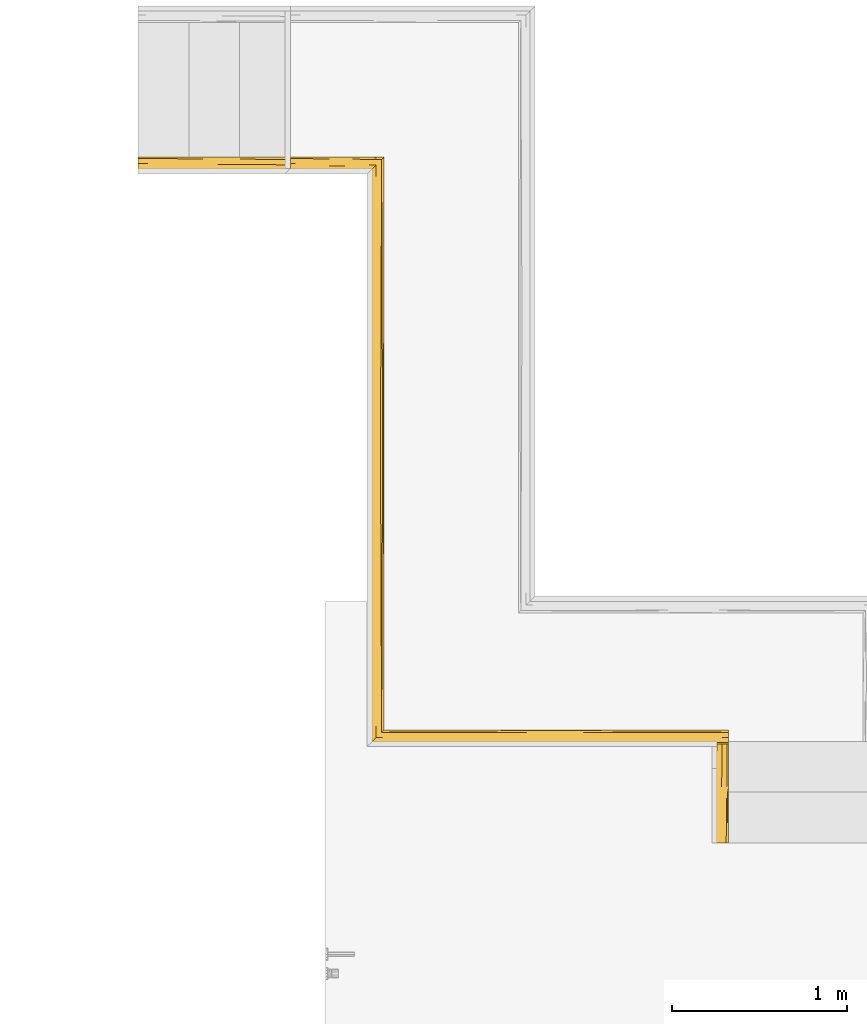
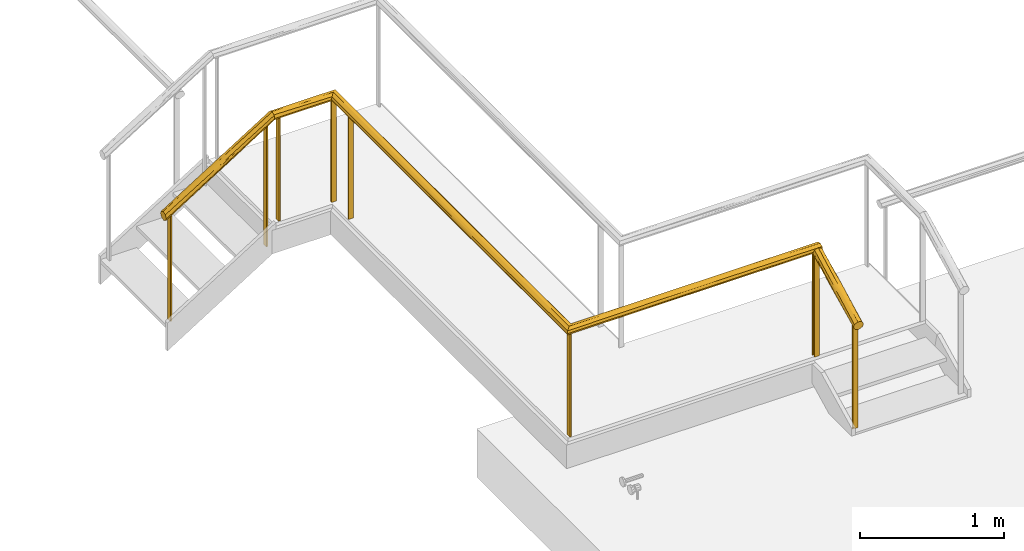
# One storey, part 13 of 15: 2 railings, 2 elements without a shape of their own.
"""IFC2X3 building model written with IfcOpenShell, lengths in centimetres."""

from ifc_helpers import new_model, entity, si_unit, converted_unit, derived_unit, direction, frame, origin, place, context, subcontext, project, spatial, faceted_brep, material, material_list, element, aggregate, save


model = new_model("IFC2X3")

# Units and contexts
model_context = context("Model", 3, precision=0.001, world=origin(), true_north=direction((6.12303176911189e-17, 1.0)))
body_context = subcontext(model_context, "Body", "Model", "MODEL_VIEW")
ifc_project = project(units=[si_unit("LENGTHUNIT", "METRE", prefix="CENTI"), si_unit("AREAUNIT", "SQUARE_METRE"), si_unit("VOLUMEUNIT", "CUBIC_METRE"), converted_unit("PLANEANGLEUNIT", "DEGREE", entity("IfcRatioMeasure", 0.0174532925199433), si_unit("PLANEANGLEUNIT", "RADIAN"), dimensions=[0, 0, 0, 0, 0, 0, 0]), si_unit("MASSUNIT", "GRAM", prefix="KILO"), si_unit("TIMEUNIT", "SECOND"), si_unit("FREQUENCYUNIT", "HERTZ"), si_unit("THERMODYNAMICTEMPERATUREUNIT", "DEGREE_CELSIUS"), derived_unit("THERMALTRANSMITTANCEUNIT", [(si_unit("MASSUNIT", "GRAM", prefix="KILO"), 1), (si_unit("THERMODYNAMICTEMPERATUREUNIT", "KELVIN"), -1), (si_unit("TIMEUNIT", "SECOND"), -3)]), derived_unit("VOLUMETRICFLOWRATEUNIT", [(si_unit("LENGTHUNIT", "METRE"), 3), (si_unit("TIMEUNIT", "SECOND"), -1)]), si_unit("ELECTRICCURRENTUNIT", "AMPERE"), si_unit("ELECTRICVOLTAGEUNIT", "VOLT"), si_unit("POWERUNIT", "WATT"), si_unit("FORCEUNIT", "NEWTON", prefix="KILO"), si_unit("ILLUMINANCEUNIT", "LUX"), si_unit("LUMINOUSFLUXUNIT", "LUMEN"), si_unit("LUMINOUSINTENSITYUNIT", "CANDELA"), derived_unit("USERDEFINED", [(si_unit("MASSUNIT", "GRAM", prefix="KILO"), -1), (si_unit("LENGTHUNIT", "METRE"), -2), (si_unit("TIMEUNIT", "SECOND"), 3), (si_unit("LUMINOUSFLUXUNIT", "LUMEN"), 1)]), derived_unit("LINEARVELOCITYUNIT", [(si_unit("LENGTHUNIT", "METRE"), 1), (si_unit("TIMEUNIT", "SECOND"), -1)]), si_unit("PRESSUREUNIT", "PASCAL"), derived_unit("USERDEFINED", [(si_unit("LENGTHUNIT", "METRE"), -2), (si_unit("MASSUNIT", "GRAM", prefix="KILO"), 1), (si_unit("TIMEUNIT", "SECOND"), -2)])], contexts=[model_context])

# Site, building, storey
site_placement = place(None, frame((8.62739174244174, -249.285249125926, 0.0)))
site = spatial("IfcSite", under=ifc_project, at=site_placement, Name="Default", CompositionType="ELEMENT")
building_placement = place(site_placement, origin())
building = spatial("IfcBuilding", under=site, at=building_placement, CompositionType="ELEMENT")
storey_placement = place(building_placement, frame((0.0, 0.0, 801.0)))
storey = spatial("IfcBuildingStorey", under=building, at=storey_placement, Name="Acrotère E3", CompositionType="ELEMENT", Elevation=801.0)

# Stair, railing
stair_1_placement = place(storey_placement, origin())
stair_1 = element("IfcStair", 1, at=stair_1_placement, inside=storey, Name="Escalier assemblé:Escalier", ShapeType="NOTDEFINED")
ifc_material_1 = material(Name="Peinture - Grise")
ifc_material_2 = material(Name="Pin (1)")
ifc_material_list_1 = material_list([ifc_material_1, ifc_material_2])
railing_1_placement = place(stair_1_placement, frame((3033.90482781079, 5956.9802081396, 24.8888888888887)))
railing_1 = element("IfcRailing", 2, at=railing_1_placement, material=ifc_material_list_1, Name="Garde-corps:Type Bateau", ObjectType="Garde-corps:Type Bateau", PredefinedType="NOTDEFINED", context=body_context, shape_type="Brep", body=[
    faceted_brep([(51.540000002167, 364.888606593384, 116.095764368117), (47.5400000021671, 364.888606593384, 116.095764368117), (47.5400000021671, 363.688606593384, 116.095764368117), (51.540000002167, 363.688606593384, 116.095764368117), (51.540000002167, 364.888606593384, 29.111111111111), (51.540000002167, 363.688606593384, 29.111111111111), (47.5400000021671, 363.688606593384, 29.111111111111), (47.5400000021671, 364.888606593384, 29.111111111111)], [[[0, 1, 2, 3]], [[4, 5, 6, 7]], [[3, 5, 4, 0]], [[2, 6, 5, 3]], [[1, 7, 6, 2]], [[0, 4, 7, 1]]]),
    faceted_brep([(51.540000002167, 388.637213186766, 116.095764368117), (47.5400000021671, 388.637213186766, 116.095764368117), (47.5400000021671, 387.437213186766, 116.095764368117), (51.540000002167, 387.437213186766, 116.095764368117), (51.540000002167, 388.637213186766, 29.111111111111), (51.540000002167, 387.437213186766, 29.111111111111), (47.5400000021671, 387.437213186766, 29.111111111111), (47.5400000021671, 388.637213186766, 29.111111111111)], [[[0, 1, 2, 3]], [[4, 5, 6, 7]], [[3, 5, 4, 0]], [[2, 6, 5, 3]], [[1, 7, 6, 2]], [[0, 4, 7, 1]]]),
    faceted_brep([(48.9400000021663, 62.5400000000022, 116.095764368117), (48.9400000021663, 58.5400000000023, 116.095764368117), (50.1400000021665, 58.5400000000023, 116.095764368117), (50.1400000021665, 62.5400000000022, 116.095764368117), (48.9400000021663, 62.5400000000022, 29.111111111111), (50.1400000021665, 62.5400000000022, 29.111111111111), (50.1400000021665, 58.5400000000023, 29.111111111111), (48.9400000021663, 58.5400000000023, 29.111111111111)], [[[0, 1, 2, 3]], [[4, 5, 6, 7]], [[3, 5, 4, 0]], [[2, 6, 5, 3]], [[1, 7, 6, 2]], [[0, 4, 7, 1]]]),
    faceted_brep([(248.539999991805, 61.1400000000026, 117.012129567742), (244.539999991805, 61.1400000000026, 117.012129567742), (244.539999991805, 59.9400000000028, 117.012129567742), (248.539999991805, 59.9400000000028, 117.012129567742), (248.539999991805, 61.1400000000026, 29.111111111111), (248.539999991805, 59.9400000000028, 29.111111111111), (244.539999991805, 59.9400000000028, 29.111111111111), (244.539999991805, 61.1400000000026, 29.111111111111)], [[[0, 1, 2, 3]], [[4, 5, 6, 7]], [[3, 5, 4, 0]], [[2, 6, 5, 3]], [[1, 7, 6, 2]], [[0, 4, 7, 1]]]),
    faceted_brep([(248.539999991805, 58.6000000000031, 115.73726366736), (244.539999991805, 58.6000000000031, 115.73726366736), (244.539999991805, 57.4000000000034, 115.73726366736), (248.539999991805, 57.4000000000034, 115.73726366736), (248.539999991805, 58.6000000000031, 29.111111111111), (248.539999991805, 57.4000000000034, 29.111111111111), (244.539999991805, 57.4000000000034, 29.111111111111), (244.539999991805, 58.6000000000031, 29.111111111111)], [[[0, 1, 2, 3]], [[4, 5, 6, 7]], [[3, 5, 4, 0]], [[2, 6, 5, 3]], [[1, 7, 6, 2]], [[0, 4, 7, 1]]]),
    faceted_brep([(4.4000000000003, 390.037213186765, 116.095764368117), (4.4000000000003, 386.037213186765, 116.095764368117), (5.60000000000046, 386.037213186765, 116.095764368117), (5.60000000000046, 390.037213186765, 116.095764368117), (4.4000000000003, 390.037213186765, 29.111111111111), (5.60000000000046, 390.037213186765, 29.111111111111), (5.60000000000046, 386.037213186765, 29.111111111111), (4.4000000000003, 386.037213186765, 29.111111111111)], [[[0, 1, 2, 3]], [[4, 5, 6, 7]], [[3, 5, 4, 0]], [[2, 6, 5, 3]], [[1, 7, 6, 2]], [[0, 4, 7, 1]]]),
    faceted_brep([(248.539999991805, 5.60000000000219, 89.1357311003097), (244.539999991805, 5.60000000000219, 89.1357311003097), (244.539999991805, 4.40000000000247, 89.1357311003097), (248.539999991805, 4.40000000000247, 89.1357311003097), (248.539999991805, 5.60000000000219, 0.0), (248.539999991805, 4.40000000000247, 0.0), (244.539999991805, 4.40000000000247, 0.0), (244.539999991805, 5.60000000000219, 0.0)], [[[0, 1, 2, 3]], [[4, 5, 6, 7]], [[3, 5, 4, 0]], [[2, 6, 5, 3]], [[1, 7, 6, 2]], [[0, 4, 7, 1]]]),
    faceted_brep([(246.121886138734, 0.0, 93.3382878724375), (244.71290907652, 0.0, 92.6556462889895), (243.303932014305, 0.0, 91.9730047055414), (242.921966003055, 0.0, 90.9865023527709), (242.539999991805, 0.0, 90.0), (243.201738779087, 0.0, 88.7527517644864), (243.863477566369, 0.0, 87.5055035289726), (245.410795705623, 0.0, 87.0836078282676), (246.184454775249, 0.0, 86.8726599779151), (246.958113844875, 0.0, 86.6617121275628), (248.36709090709, 0.0, 87.3443537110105), (249.776067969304, 0.0, 88.0269952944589), (250.158033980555, 0.0, 89.0134976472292), (250.539999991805, 0.0, 90.0), (249.878261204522, 0.0, 91.2472482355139), (249.21652241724, 0.0, 92.4944964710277), (247.669204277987, 0.0, 92.9163921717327), (246.121886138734, 56.4790765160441, 115.009447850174), (244.71290907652, 56.4790765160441, 115.692089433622), (243.303932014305, 56.4790765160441, 116.37473101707), (242.921966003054, 56.4790765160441, 117.36123336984), (242.539999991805, 56.4790765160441, 118.347735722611), (242.89580953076, 56.4790765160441, 119.018367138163), (243.201738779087, 56.4790765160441, 119.594983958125), (243.863477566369, 56.4790765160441, 120.842232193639), (245.410795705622, 56.4790765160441, 121.264127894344), (246.958113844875, 56.4790765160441, 121.686023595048), (248.367090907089, 56.4790765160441, 121.0033820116), (249.776067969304, 56.4790765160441, 120.320740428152), (250.158033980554, 56.4790765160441, 119.334238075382), (250.539999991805, 56.4790765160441, 118.347735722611), (249.878261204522, 56.4790765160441, 117.100487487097), (249.21652241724, 56.4790765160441, 115.853239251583), (247.669204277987, 56.4790765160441, 115.431343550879), (242.962581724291, 30.6450815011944, 103.879609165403), (246.543648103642, 28.2891961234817, 100.842117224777), (243.585607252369, 28.5639294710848, 102.073795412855), (244.419956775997, 25.1127368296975, 99.7580463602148), (245.430823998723, 31.6054961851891, 102.638250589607), (248.670616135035, 31.4298011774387, 102.93424492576), (247.666077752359, 24.7667047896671, 99.20988109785), (250.119345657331, 26.1579074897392, 101.630663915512), (242.539999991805, 31.2933393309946, 105.706618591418), (249.499376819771, 28.0204494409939, 101.805605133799), (250.539999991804, 31.2933393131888, 105.706618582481), (250.539999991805, 25.1857355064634, 102.641116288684), (242.539999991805, 25.1857355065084, 102.641116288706), (250.122796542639, 30.2785283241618, 106.689850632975), (249.506560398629, 28.3368832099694, 106.474378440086), (248.679067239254, 25.166773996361, 105.467989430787), (247.678586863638, 31.8643434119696, 109.21103326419), (246.553608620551, 28.0744320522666, 107.447655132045), (245.477088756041, 25.4280662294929, 105.998743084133), (244.472921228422, 32.0767263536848, 108.973545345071), (243.592239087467, 27.79925354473, 106.221853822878), (242.649440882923, 24.7389384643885, 103.196679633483), (242.971281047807, 25.7162267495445, 104.42352347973)], [[[0, 1, 2, 3, 4, 5, 6, 7, 8, 9, 10, 11, 12, 13, 14, 15, 16]], [[17, 18, 19, 20, 21, 22, 23, 24, 25, 26, 27, 28, 29, 30, 31, 32, 33]], [[19, 34, 20]], [[35, 17, 33]], [[36, 37, 6]], [[35, 38, 17]], [[39, 40, 33]], [[8, 7, 38]], [[38, 7, 37]], [[40, 10, 9]], [[33, 40, 35]], [[5, 36, 6]], [[11, 41, 12]], [[34, 5, 42]], [[38, 35, 8]], [[9, 8, 35]], [[31, 43, 32]], [[31, 30, 44, 45]], [[9, 35, 40]], [[39, 32, 43]], [[10, 40, 39]], [[38, 18, 17]], [[18, 38, 37]], [[11, 10, 43]], [[32, 39, 33]], [[39, 43, 10]], [[45, 13, 12]], [[31, 41, 43]], [[19, 18, 36]], [[41, 31, 45]], [[6, 37, 7]], [[37, 36, 18]], [[5, 4, 46, 42]], [[5, 34, 36]], [[42, 21, 20]], [[43, 41, 11]], [[12, 41, 45]], [[36, 34, 19]], [[20, 34, 42]], [[28, 47, 29]], [[14, 48, 15]], [[49, 50, 16]], [[16, 50, 51]], [[51, 25, 52]], [[0, 51, 52]], [[53, 1, 52]], [[24, 23, 54]], [[23, 55, 56]], [[14, 13, 45, 44]], [[23, 56, 54]], [[3, 2, 56]], [[55, 23, 22]], [[53, 54, 1]], [[55, 46, 4]], [[49, 15, 48]], [[22, 21, 42, 46]], [[2, 54, 56]], [[24, 54, 53]], [[54, 2, 1]], [[53, 25, 24]], [[25, 53, 52]], [[3, 56, 55]], [[26, 25, 51]], [[0, 52, 1]], [[26, 51, 50]], [[51, 0, 16]], [[50, 27, 26]], [[27, 50, 49]], [[28, 27, 48]], [[15, 49, 16]], [[49, 48, 27]], [[44, 30, 29]], [[14, 47, 48]], [[3, 55, 4]], [[47, 14, 44]], [[46, 55, 22]], [[48, 47, 28]], [[29, 47, 44]]]),
    faceted_brep([(250.600923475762, 57.2017387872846, 117.996393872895), (250.600923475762, 57.8634775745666, 116.881676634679), (250.600923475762, 59.4107957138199, 116.504611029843), (250.600923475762, 60.9581138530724, 116.127545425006), (250.600923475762, 62.367090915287, 116.73765038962), (250.600923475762, 63.7760679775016, 117.347755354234), (250.600923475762, 64.1580339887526, 118.229433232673), (250.600923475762, 64.5400000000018, 119.111111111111), (250.600923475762, 64.1434902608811, 119.779042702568), (250.600923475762, 63.7469805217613, 120.446974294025), (250.600923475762, 63.2165224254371, 121.340545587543), (250.600923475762, 61.6692042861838, 121.71761119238), (250.600923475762, 60.1218861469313, 122.094676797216), (250.600923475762, 58.7129090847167, 121.484571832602), (250.600923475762, 57.303932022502, 120.874466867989), (250.600923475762, 56.921966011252, 119.99278898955), (250.600923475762, 56.5400000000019, 119.111111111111), (150.279518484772, 60.1218861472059, 116.127545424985), (53.1580339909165, 64.1580339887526, 118.229433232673), (151.688495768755, 64.1026388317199, 117.747099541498), (52.7760679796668, 63.7760679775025, 117.347755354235), (46.2017387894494, 57.2017387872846, 117.996393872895), (148.732199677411, 57.3039320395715, 117.347755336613), (148.401329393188, 56.8035327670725, 118.040208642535), (148.732200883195, 58.5317784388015, 116.516604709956), (150.279518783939, 61.7679582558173, 116.255972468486), (151.688495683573, 63.4689740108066, 117.067982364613), (141.915184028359, 64.4288439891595, 118.408792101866), (51.3670909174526, 62.3670909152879, 116.737650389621), (151.029516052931, 62.687803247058, 116.580270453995), (53.5400000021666, 64.5400000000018, 119.111111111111), (49.958113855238, 60.9581138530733, 116.127545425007), (48.4107957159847, 59.4107957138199, 116.504611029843), (46.8634775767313, 57.8634775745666, 116.881676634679), (149.075131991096, 64.5400000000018, 119.111111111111), (151.075232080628, 64.5400000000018, 119.111111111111), (147.065795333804, 56.5400000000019, 119.111111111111), (145.065693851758, 56.5400000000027, 119.111111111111), (45.5400000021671, 56.5400000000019, 119.111111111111), (46.164856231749, 57.1648562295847, 118.058523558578), (149.861404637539, 60.9487703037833, 122.095405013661), (52.2165224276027, 63.216522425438, 121.340545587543), (151.408722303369, 63.6756127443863, 120.97376034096), (52.8782612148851, 63.8782612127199, 120.225828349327), (154.895742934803, 64.20421231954, 120.314282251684), (151.408723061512, 62.8986050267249, 121.534085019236), (150.635063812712, 61.9938697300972, 121.905931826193), (161.384042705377, 56.649896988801, 119.80949706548), (148.452427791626, 56.9759739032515, 120.473082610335), (47.7129090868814, 58.7129090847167, 121.484571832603), (149.156916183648, 59.2957366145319, 121.962276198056), (49.121886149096, 60.1218861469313, 122.094676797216), (50.6692042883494, 61.6692042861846, 121.71761119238), (148.452427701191, 57.6434369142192, 121.18006768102), (45.8451607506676, 56.8451607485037, 119.815502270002), (46.3039320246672, 57.303932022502, 120.874466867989), (46.0209030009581, 57.0209029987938, 120.221161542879), (153.8890804, 58.4047690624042, 121.647928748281), (46.2017387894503, 384.698951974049, 117.996393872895), (46.8634775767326, 385.360690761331, 116.881676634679), (46.2753437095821, 214.666186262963, 117.37765045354), (53.0590970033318, 391.556310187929, 118.00106067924), (53.0281384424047, 227.52467452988, 117.642778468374), (52.7760679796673, 391.273281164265, 117.347755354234), (53.4161493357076, 248.863370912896, 118.370368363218), (53.5400000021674, 192.842393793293, 119.111111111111), (49.1275766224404, 224.706720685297, 116.127099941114), (47.5449569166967, 223.159402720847, 116.510892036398), (45.6929088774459, 224.826448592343, 118.289564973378), (45.5400000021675, 184.843571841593, 119.111111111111), (45.5400000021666, 255.733725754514, 119.111111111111), (45.5400000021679, 384.037213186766, 119.111111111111), (47.6371366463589, 386.134349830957, 116.693143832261), (48.4107957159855, 386.908008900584, 116.504611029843), (49.9581138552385, 388.455327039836, 116.127545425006), (51.3670909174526, 389.864304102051, 116.73765038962), (50.7711099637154, 224.706720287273, 116.256736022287), (52.2140326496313, 226.367509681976, 116.879996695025), (52.0715794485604, 390.568792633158, 117.042702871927), (53.2590871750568, 391.756300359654, 118.462690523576), (53.5400000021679, 392.037213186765, 119.111111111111), (53.540000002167, 263.73364156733, 119.111111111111), (52.2165224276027, 390.713735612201, 121.340545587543), (50.6692042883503, 389.166417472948, 121.71761119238), (51.5449528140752, 226.965128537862, 121.70703914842), (49.9524233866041, 223.870492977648, 122.095122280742), (52.7746252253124, 226.965130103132, 120.875955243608), (45.6638506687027, 199.713842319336, 119.851853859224), (53.3870911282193, 223.750769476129, 119.93265724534), (53.1442537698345, 391.641466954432, 119.777756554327), (52.9151437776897, 391.412356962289, 120.163698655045), (46.8659673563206, 222.209703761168, 121.342225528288), (46.0518615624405, 221.052538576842, 120.579443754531), (46.3039320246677, 384.801145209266, 120.874466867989), (48.3088900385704, 223.870492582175, 121.965486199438), (45.9219660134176, 384.419179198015, 119.99278898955), (45.8445890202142, 384.341802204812, 119.814182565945), (49.1218861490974, 387.619099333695, 122.094676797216), (47.7129090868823, 386.210122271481, 121.484571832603), (52.8782612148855, 391.375474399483, 120.225828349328), (0.0, 391.375474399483, 117.996393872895), (0.0, 390.713735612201, 116.881676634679), (0.0, 389.166417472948, 116.504611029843), (0.0, 388.392758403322, 116.316078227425), (0.0, 387.619099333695, 116.127545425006), (0.0, 386.210122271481, 116.73765038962), (0.0, 384.801145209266, 117.347755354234), (0.0, 384.419179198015, 118.229433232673), (0.0, 384.037213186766, 119.111111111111), (0.0, 384.698951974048, 120.225828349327), (0.0, 385.360690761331, 121.340545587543), (0.0, 386.134349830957, 121.529078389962), (0.0, 386.908008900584, 121.71761119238), (0.0, 387.68166797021, 121.906143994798), (0.0, 388.455327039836, 122.094676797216), (0.0, 389.864304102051, 121.484571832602), (0.0, 391.273281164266, 120.874466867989), (0.0, 391.655247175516, 119.99278898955), (0.0, 392.037213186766, 119.111111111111), (21.8401628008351, 387.007174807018, 116.21228388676), (24.9790569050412, 388.037213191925, 116.111111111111), (28.2311152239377, 389.448510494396, 116.304042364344), (26.0357897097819, 390.41435939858, 116.698350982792), (24.7385737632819, 391.886978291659, 118.296641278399), (25.9384578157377, 392.037213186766, 119.111111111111), (29.617781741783, 392.037213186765, 119.111111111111), (25.1718543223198, 391.442725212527, 117.537453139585), (24.2907614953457, 391.60759745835, 120.46368286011), (22.4424965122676, 389.122303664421, 121.998618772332), (24.5609430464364, 388.037213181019, 122.111111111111), (22.8404959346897, 391.92901893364, 119.804140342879), (29.3895443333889, 390.13477005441, 121.665547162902), (27.1117692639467, 386.988595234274, 122.006188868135), (25.4691415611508, 390.969677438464, 121.15142176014)], [[[0, 1, 2, 3, 4, 5, 6, 7, 8, 9, 10, 11, 12, 13, 14, 15, 16]], [[17, 3, 2]], [[18, 19, 20]], [[21, 22, 23]], [[5, 19, 6]], [[23, 0, 16]], [[24, 17, 2]], [[17, 25, 3]], [[20, 19, 26]], [[18, 27, 19]], [[22, 1, 0]], [[28, 29, 25]], [[5, 26, 19]], [[27, 18, 30]], [[29, 4, 25]], [[29, 26, 4]], [[31, 28, 25]], [[27, 7, 6]], [[32, 24, 33]], [[27, 30, 34, 35, 7]], [[20, 26, 28]], [[26, 5, 4]], [[19, 27, 6]], [[31, 25, 17]], [[3, 25, 4]], [[33, 24, 22]], [[1, 24, 2]], [[17, 32, 31]], [[32, 17, 24]], [[1, 22, 24]], [[33, 22, 21]], [[22, 0, 23]], [[23, 16, 36, 37, 38]], [[26, 29, 28]], [[23, 38, 39, 21]], [[40, 12, 11]], [[41, 42, 43]], [[44, 42, 9]], [[11, 45, 46]], [[10, 9, 42]], [[42, 44, 43]], [[42, 41, 45]], [[45, 11, 10]], [[47, 15, 48]], [[49, 50, 51]], [[12, 50, 13]], [[15, 14, 48]], [[41, 52, 45]], [[8, 35, 44]], [[14, 53, 48]], [[13, 53, 14]], [[10, 42, 45]], [[52, 51, 40]], [[30, 43, 44]], [[7, 35, 8]], [[44, 35, 34, 30]], [[44, 9, 8]], [[47, 48, 54]], [[48, 55, 56, 54]], [[47, 37, 36, 16]], [[54, 38, 37]], [[55, 48, 53]], [[53, 49, 55]], [[57, 50, 49]], [[46, 52, 40]], [[12, 40, 50]], [[40, 51, 50]], [[13, 50, 57]], [[11, 46, 40]], [[46, 45, 52]], [[15, 47, 16]], [[37, 47, 54]], [[57, 53, 13]], [[53, 57, 49]], [[58, 59, 60]], [[61, 62, 63]], [[18, 64, 65]], [[31, 32, 66]], [[67, 32, 33]], [[68, 38, 69, 70, 71]], [[67, 59, 72, 73]], [[62, 18, 20]], [[62, 64, 18]], [[60, 33, 21, 39]], [[74, 75, 76]], [[77, 75, 78, 63]], [[20, 77, 62]], [[73, 74, 66]], [[63, 62, 77]], [[68, 39, 38]], [[28, 31, 76]], [[65, 30, 18]], [[75, 77, 76]], [[77, 20, 28]], [[64, 61, 79, 80]], [[61, 64, 62]], [[64, 80, 81, 65]], [[67, 33, 60]], [[58, 60, 68]], [[67, 73, 66]], [[31, 66, 76]], [[60, 59, 67]], [[32, 67, 66]], [[77, 28, 76]], [[74, 76, 66]], [[39, 68, 60]], [[58, 68, 71]], [[82, 83, 84]], [[52, 84, 85]], [[41, 43, 86]], [[87, 70, 69, 38]], [[88, 80, 89, 90]], [[55, 49, 91]], [[85, 84, 83]], [[30, 88, 43]], [[92, 91, 93]], [[56, 55, 92]], [[51, 52, 85]], [[91, 92, 55]], [[92, 87, 56]], [[86, 88, 90]], [[88, 30, 65, 81, 80]], [[94, 91, 49]], [[70, 95, 96, 71]], [[94, 97, 98]], [[92, 93, 95]], [[91, 98, 93]], [[98, 91, 94]], [[87, 92, 95]], [[87, 38, 54, 56]], [[70, 87, 95]], [[51, 85, 94]], [[97, 85, 83]], [[82, 84, 86]], [[41, 84, 52]], [[41, 86, 84]], [[86, 90, 99, 82]], [[97, 94, 85]], [[51, 94, 49]], [[43, 88, 86]], [[100, 101, 102, 103, 104, 105, 106, 107, 108, 109, 110, 111, 112, 113, 114, 115, 116, 117, 118]], [[107, 106, 58]], [[59, 58, 106]], [[108, 107, 71]], [[119, 120, 73]], [[105, 59, 106]], [[72, 59, 105]], [[75, 121, 122]], [[123, 118, 124, 125]], [[126, 79, 61, 63]], [[118, 123, 100]], [[126, 123, 79]], [[125, 79, 123]], [[121, 120, 103]], [[122, 121, 102]], [[78, 75, 122]], [[107, 58, 71]], [[125, 80, 79]], [[120, 74, 73]], [[126, 100, 123]], [[126, 101, 100]], [[63, 78, 126]], [[101, 126, 122]], [[78, 122, 126]], [[101, 122, 102]], [[103, 102, 121]], [[121, 75, 74]], [[104, 103, 120]], [[119, 104, 120]], [[74, 120, 121]], [[119, 105, 104]], [[73, 72, 119]], [[119, 72, 105]], [[116, 127, 117]], [[128, 114, 129]], [[97, 83, 129]], [[130, 99, 90, 89]], [[98, 110, 93]], [[98, 111, 110]], [[131, 128, 83]], [[132, 97, 129]], [[132, 113, 112, 111]], [[109, 108, 96]], [[71, 96, 108]], [[110, 109, 93]], [[133, 131, 82]], [[132, 129, 113]], [[109, 96, 95, 93]], [[83, 128, 129]], [[99, 133, 82]], [[114, 113, 129]], [[128, 115, 114]], [[115, 128, 131]], [[132, 98, 97]], [[132, 111, 98]], [[116, 115, 133]], [[82, 131, 83]], [[131, 133, 115]], [[99, 130, 127]], [[99, 127, 133]], [[130, 124, 118]], [[133, 127, 116]], [[89, 80, 125, 124]], [[117, 127, 130]], [[117, 130, 118]], [[124, 130, 89]]]),
])
aggregate(stair_1, [railing_1])

stair_2_placement = place(storey_placement, origin())
stair_2 = element("IfcStair", 3, at=stair_2_placement, inside=storey, Name="Escalier assemblé:Escalier", ShapeType="NOTDEFINED")
ifc_material_list_2 = material_list([ifc_material_1, ifc_material_2])
railing_2_placement = place(stair_2_placement, frame((2946.90482781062, 6340.85789410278, -0.666666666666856)))
railing_2 = element("IfcRailing", 4, at=railing_2_placement, material=ifc_material_list_2, Name="Garde-corps:Type Bateau", ObjectType="Garde-corps:Type Bateau", PredefinedType="NOTDEFINED", context=body_context, shape_type="Brep", body=[
    faceted_brep([(82.6000000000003, 6.15952722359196, 137.963695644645), (81.4000000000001, 6.15952722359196, 137.963695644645), (81.4000000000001, 2.159527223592, 137.963695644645), (82.6000000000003, 2.159527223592, 137.963695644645), (82.6000000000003, 6.15952722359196, 36.4444444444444), (82.6000000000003, 2.159527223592, 36.4444444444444), (81.4000000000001, 2.159527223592, 36.4444444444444), (81.4000000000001, 6.15952722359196, 36.4444444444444)], [[[0, 1, 2, 3]], [[4, 5, 6, 7]], [[1, 0, 4, 7]], [[2, 1, 7, 6]], [[3, 2, 6, 5]], [[0, 3, 5, 4]]]),
    faceted_brep([(5.60000000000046, 6.15952722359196, 89.5805538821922), (4.4000000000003, 6.15952722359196, 89.5805538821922), (4.4000000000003, 2.159527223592, 89.5805538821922), (5.60000000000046, 2.159527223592, 89.5805538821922), (5.60000000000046, 6.15952722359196, 0.0), (5.60000000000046, 2.159527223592, 0.0), (4.4000000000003, 2.159527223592, 0.0), (4.4000000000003, 6.15952722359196, 0.0)], [[[0, 1, 2, 3]], [[4, 5, 6, 7]], [[1, 0, 4, 7]], [[2, 1, 7, 6]], [[3, 2, 6, 5]], [[0, 3, 5, 4]]]),
    faceted_brep([(0.0, 1.48300479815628, 92.633024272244), (0.0, 3.03032293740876, 93.0783492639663), (0.0, 4.5776410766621, 93.5236742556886), (0.0, 5.98661813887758, 92.8031232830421), (0.0, 7.39559520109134, 92.0825723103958), (0.0, 7.77756121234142, 91.0412861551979), (0.0, 8.1595272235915, 90.0), (0.0, 7.49778843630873, 88.6834878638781), (0.0, 6.83604964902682, 87.3669757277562), (0.0, 5.28873150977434, 86.9216507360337), (0.0, 4.5150724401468, 86.6989882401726), (0.0, 3.741413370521, 86.4763257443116), (0.0, 2.33243630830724, 87.1968767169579), (0.0, 0.923459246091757, 87.9174276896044), (0.0, 0.54149323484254, 88.9587138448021), (0.0, 0.15952722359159, 90.0), (0.0, 0.821266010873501, 91.3165121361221), (87.0, 0.821266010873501, 143.350154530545), (87.0, 1.48300479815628, 142.033642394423), (87.0, 3.03032293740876, 141.588317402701), (87.0, 4.5776410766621, 141.142992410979), (87.0, 5.98661813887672, 141.863543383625), (87.0, 7.39559520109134, 142.584094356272), (87.0, 7.77756121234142, 143.625380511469), (87.0, 8.1595272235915, 144.666666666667), (87.0, 7.49778843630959, 145.983178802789), (87.0, 6.83604964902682, 147.299690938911), (87.0, 5.28873150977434, 147.745015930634), (87.0, 3.741413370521, 148.190340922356), (87.0, 2.33243630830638, 147.469789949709), (87.0, 0.923459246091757, 146.749238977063), (87.0, 0.541493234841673, 145.707952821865), (87.0, 0.15952722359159, 144.666666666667), (36.8666003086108, 8.02411869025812, 112.251143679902), (46.6073203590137, 0.7842993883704, 117.384441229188), (45.3720805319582, 3.42748462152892, 115.026415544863), (38.2869607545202, 6.05579838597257, 110.938063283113), (43.5242527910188, 4.98840300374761, 113.882393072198), (46.5504868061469, 2.38192477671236, 116.076120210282), (36.1371269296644, 1.48583532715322, 110.071574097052), (45.8486968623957, 0.336276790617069, 117.767559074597), (26.1494504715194, 8.1595272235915, 106.431072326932), (60.8505463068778, 8.1595272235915, 128.235592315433), (43.340463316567, 7.61809586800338, 115.453084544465), (48.2161761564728, 6.94974299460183, 117.758020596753), (60.8505463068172, 0.15952722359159, 128.235592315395), (26.1494504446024, 0.15952722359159, 106.431072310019), (46.3428116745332, 0.560433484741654, 120.665671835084), (42.8649360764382, 1.16289654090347, 119.28119858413), (39.4937956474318, 1.99016423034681, 117.792777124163), (49.7508696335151, 2.98258791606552, 124.647325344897), (42.7976339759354, 4.12025700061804, 120.434912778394), (39.7696267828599, 8.06398392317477, 115.759107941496), (39.6862148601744, 7.72721402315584, 116.539078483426), (39.5561967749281, 5.20472994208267, 118.275222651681), (42.7017685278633, 7.10232025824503, 119.231526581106), (49.6878665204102, 6.21182380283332, 124.262680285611)], [[[0, 1, 2, 3, 4, 5, 6, 7, 8, 9, 10, 11, 12, 13, 14, 15, 16]], [[17, 18, 19, 20, 21, 22, 23, 24, 25, 26, 27, 28, 29, 30, 31, 32]], [[7, 6, 33]], [[14, 13, 34]], [[11, 35, 12]], [[9, 36, 37]], [[37, 36, 21]], [[12, 38, 39]], [[13, 39, 34]], [[17, 34, 18]], [[35, 38, 12]], [[10, 9, 37]], [[14, 34, 40]], [[33, 6, 41, 42, 24]], [[8, 43, 44]], [[39, 13, 12]], [[36, 8, 44]], [[17, 40, 34]], [[19, 18, 38]], [[18, 34, 39]], [[40, 17, 32]], [[40, 32, 45, 46, 15]], [[14, 40, 15]], [[39, 38, 18]], [[35, 19, 38]], [[35, 20, 19]], [[11, 10, 35]], [[20, 35, 37]], [[10, 37, 35]], [[20, 37, 21]], [[22, 21, 44]], [[36, 9, 8]], [[36, 44, 21]], [[22, 44, 43]], [[33, 23, 43]], [[7, 43, 8]], [[23, 22, 43]], [[43, 7, 33]], [[23, 33, 24]], [[30, 47, 31]], [[48, 49, 0]], [[49, 50, 1]], [[1, 50, 51]], [[52, 53, 25]], [[2, 51, 54]], [[55, 26, 25]], [[55, 53, 4]], [[52, 25, 24]], [[16, 15, 46]], [[55, 25, 53]], [[5, 4, 53]], [[5, 53, 52]], [[56, 55, 3]], [[56, 3, 54]], [[48, 29, 49]], [[26, 55, 56]], [[52, 24, 42, 41, 6]], [[54, 51, 27]], [[55, 4, 3]], [[56, 27, 26]], [[27, 56, 54]], [[28, 27, 51]], [[2, 54, 3]], [[28, 51, 50]], [[51, 2, 1]], [[50, 29, 28]], [[29, 50, 49]], [[30, 29, 48]], [[0, 49, 1]], [[31, 46, 45, 32]], [[48, 0, 16]], [[16, 47, 48]], [[5, 52, 6]], [[47, 16, 46]], [[48, 47, 30]], [[31, 47, 46]]]),
])
aggregate(stair_2, [railing_2])

save(model, "model.ifc")
